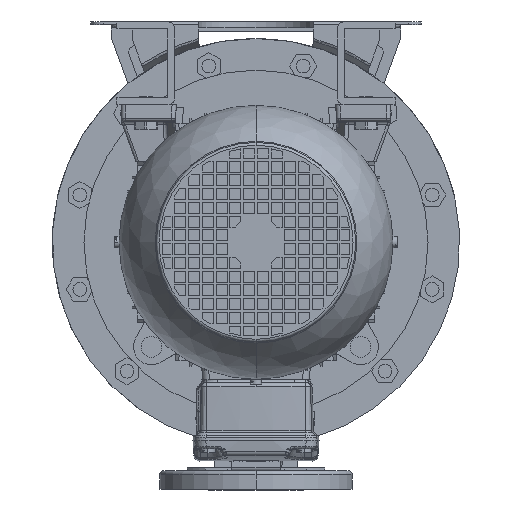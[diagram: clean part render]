
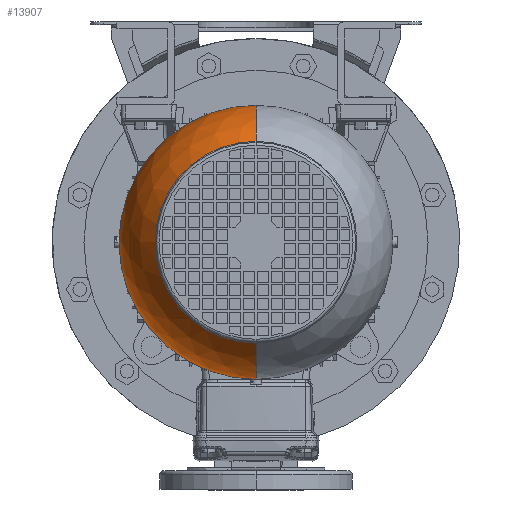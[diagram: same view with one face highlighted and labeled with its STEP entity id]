
A CAD part, front view. The second image highlights one B-rep face of the part: STEP entity #13907.
In plain terms, the highlighted spherical face has radius 99.5 mm.
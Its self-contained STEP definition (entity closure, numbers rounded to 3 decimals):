
#3146 = CIRCLE ( 'NONE', #42798, 99.5 ) ;
#3782 = FACE_OUTER_BOUND ( 'NONE', #38539, .T. ) ;
#13907 = ADVANCED_FACE ( 'NONE', ( #3782 ), #86048, .T. ) ;
#14166 = DIRECTION ( 'NONE',  ( 0., 0., -1. ) ) ;
#14931 = CARTESIAN_POINT ( 'NONE',  ( 0., 0., -111.05 ) ) ;
#24759 = DIRECTION ( 'NONE',  ( 0., 0., 1. ) ) ;
#25163 = VERTEX_POINT ( 'NONE', #72346 ) ;
#25347 = VERTEX_POINT ( 'NONE', #98716 ) ;
#29821 = AXIS2_PLACEMENT_3D ( 'NONE', #60482, #24759, #94639 ) ;
#37443 = DIRECTION ( 'NONE',  ( 0., 1., 0. ) ) ;
#38539 = EDGE_LOOP ( 'NONE', ( #52395, #126512, #132503, #47496 ) ) ;
#38681 = DIRECTION ( 'NONE',  ( -1., 0., 0. ) ) ;
#39930 = CARTESIAN_POINT ( 'NONE',  ( 0., -73.29, -178.346 ) ) ;
#42798 = AXIS2_PLACEMENT_3D ( 'NONE', #50335, #38681, #99192 ) ;
#46129 = DIRECTION ( 'NONE',  ( 0., -1., 0. ) ) ;
#47496 = ORIENTED_EDGE ( 'NONE', *, *, #64423, .T. ) ;
#50335 = CARTESIAN_POINT ( 'NONE',  ( 0., 0., -111.05 ) ) ;
#52395 = ORIENTED_EDGE ( 'NONE', *, *, #73040, .F. ) ;
#56257 = DIRECTION ( 'NONE',  ( 0., 0., 1. ) ) ;
#60482 = CARTESIAN_POINT ( 'NONE',  ( 0., 0., -111.05 ) ) ;
#64165 = VERTEX_POINT ( 'NONE', #120194 ) ;
#64339 = EDGE_CURVE ( 'NONE', #25347, #64165, #3146, .T. ) ;
#64423 = EDGE_CURVE ( 'NONE', #64165, #105649, #151806, .T. ) ;
#64444 = CIRCLE ( 'NONE', #71856, 99.5 ) ;
#65838 = DIRECTION ( 'NONE',  ( 1., 0., 0. ) ) ;
#67494 = AXIS2_PLACEMENT_3D ( 'NONE', #142345, #56257, #46129 ) ;
#71856 = AXIS2_PLACEMENT_3D ( 'NONE', #14931, #14166, #37443 ) ;
#72346 = CARTESIAN_POINT ( 'NONE',  ( 0., -99.5, -111.05 ) ) ;
#73040 = EDGE_CURVE ( 'NONE', #25163, #105649, #88424, .T. ) ;
#86048 = SPHERICAL_SURFACE ( 'NONE', #29821, 99.5 ) ;
#88424 = CIRCLE ( 'NONE', #90957, 99.5 ) ;
#90646 = DIRECTION ( 'NONE',  ( 0., 1., 0. ) ) ;
#90957 = AXIS2_PLACEMENT_3D ( 'NONE', #124027, #65838, #90646 ) ;
#94639 = DIRECTION ( 'NONE',  ( 0., 1., 0. ) ) ;
#98716 = CARTESIAN_POINT ( 'NONE',  ( 0., 99.5, -111.05 ) ) ;
#99192 = DIRECTION ( 'NONE',  ( 0., 0., 1. ) ) ;
#105649 = VERTEX_POINT ( 'NONE', #39930 ) ;
#120194 = CARTESIAN_POINT ( 'NONE',  ( 0., 73.29, -178.346 ) ) ;
#124027 = CARTESIAN_POINT ( 'NONE',  ( 0., 0., -111.05 ) ) ;
#126512 = ORIENTED_EDGE ( 'NONE', *, *, #145362, .T. ) ;
#132503 = ORIENTED_EDGE ( 'NONE', *, *, #64339, .T. ) ;
#142345 = CARTESIAN_POINT ( 'NONE',  ( 0., 0., -178.346 ) ) ;
#145362 = EDGE_CURVE ( 'NONE', #25163, #25347, #64444, .T. ) ;
#151806 = CIRCLE ( 'NONE', #67494, 73.29 ) ;
